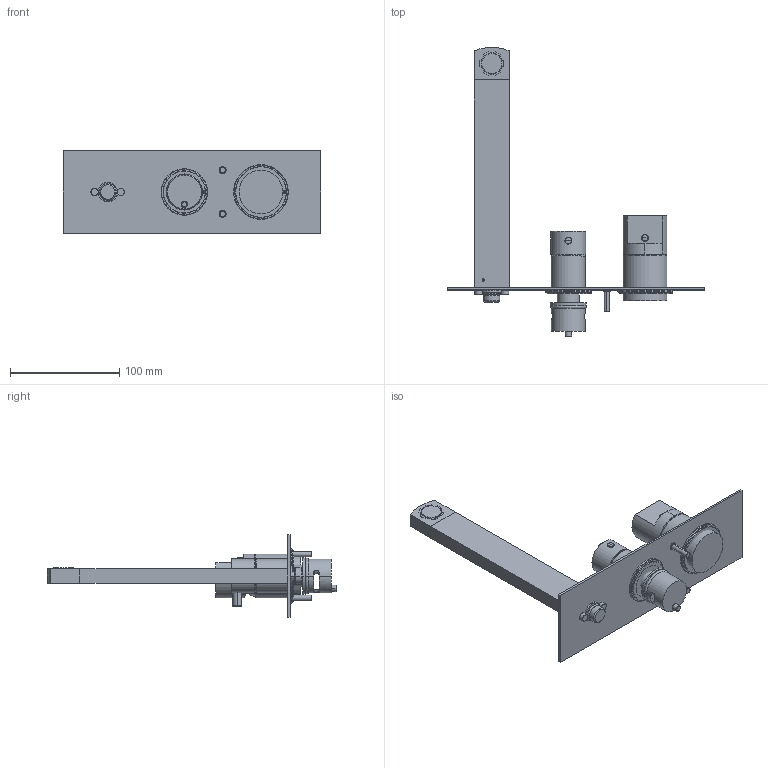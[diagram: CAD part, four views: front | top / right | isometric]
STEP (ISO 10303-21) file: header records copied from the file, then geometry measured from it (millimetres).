
FILE_DESCRIPTION((''),'2;1');
FILE_NAME('89528V221_SW0001','2023-06-05T13:59:40',('volponeff'),(''),'CREO PARAMETRIC BY PTC INC, 2022014','CREO PARAMETRIC BY PTC INC, 2022014','');
FILE_SCHEMA(('CONFIG_CONTROL_DESIGN'));
Length unit declared in the file: millimetre
Products named in the file (1): 89528V221_SW0001
Bounding box: 235 x 264.2 x 75 mm (x, y, z)
Surface area: 99122.9 mm2 (no closed solid volume)
Topology: 0 solids, 39 shells, 210 faces, 656 edges, 478 vertices
Faces by surface type: cylinder 83, plane 72, torus 30, cone 18, sphere 4, bspline 3
Entity records: 8527 total; most frequent: CARTESIAN_POINT 2677, DIRECTION 1330, ORIENTED_EDGE 1037, EDGE_CURVE 652, AXIS2_PLACEMENT_3D 532, VERTEX_POINT 478, CIRCLE 325, VECTOR 266
